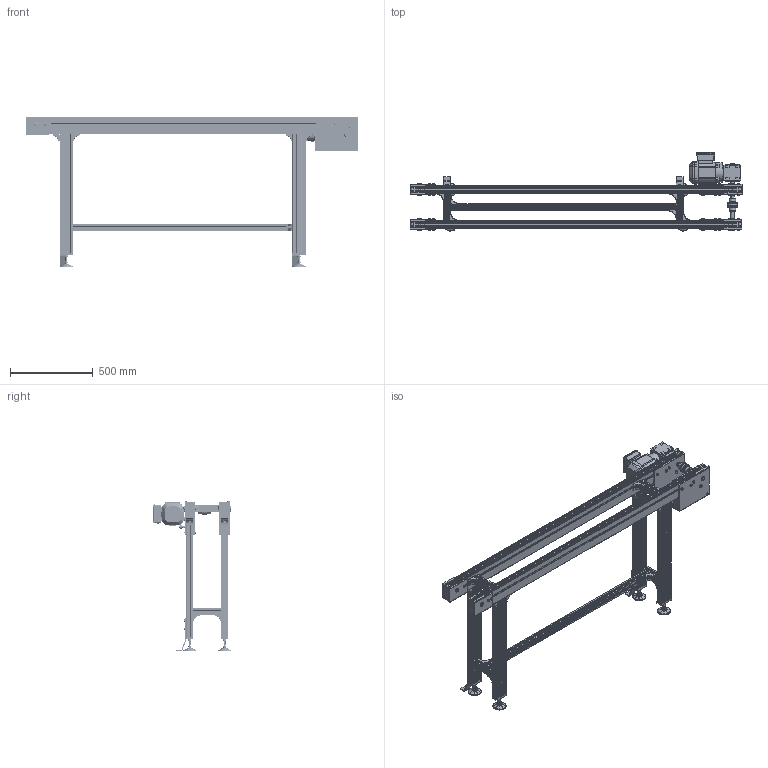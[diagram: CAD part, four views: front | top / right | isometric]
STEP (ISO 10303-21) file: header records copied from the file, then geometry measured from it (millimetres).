
FILE_DESCRIPTION(/* description */ (''),/* implementation_level */ '2;1');
FILE_NAME(/* name */ 'C:\Marketing\01_Versamove-SPU_STEP-Dateien-Homepage\VersamoveStandard\B240\STEP-Dateien\Staurollenförderer_SRF-P-2045_B240_L2000.stp',/* time_stamp */ '2016-12-15T13:49:24+01:00',/* author */ ('herbert.engels'),/* organization */ (''),/* preprocessor_version */ 'ST-DEVELOPER v15.6',/* originating_system */ 'Autodesk Inventor 2015',/* authorisation */ '');
FILE_SCHEMA (('CONFIG_CONTROL_DESIGN'));
Products named in the file (1): Staurollenförderer_Standard_B240_L2000
Bounding box: 2000 x 470.57 x 905.05 mm (x, y, z)
Volume: 27400376.4 mm3; surface area: 5680246.2 mm2
Topology: 7 solids, 7 shells, 5342 faces, 14355 edges, 9252 vertices
Faces by surface type: plane 3256, cylinder 1512, cone 385, torus 123, sphere 50, bspline 16
Full cylindrical faces by diameter (mm): 2 x8, 6 x8, 6.647 x8, 7.323 x4, 8 x63, 8.5 x48, 8.7 x4, 9 x12, 10 x4, 10.066 x1, 11.4 x24, 12 x8, 13 x74, 13.6 x8, 14 x40, 15 x8, 16 x10, 18 x4, 19 x4, 19.77 x4, 20 x17, 25 x1, 25.05 x4, 28 x1, 30 x2, 40 x2, 53 x1, 54 x2, 56 x3, 79 x4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
Entity records: 172015 total; most frequent: CARTESIAN_POINT 33852, ORIENTED_EDGE 27276, DIRECTION 27224, EDGE_CURVE 13629, AXIS2_PLACEMENT_3D 9223, VERTEX_POINT 9077, LINE 8778, VECTOR 8778
